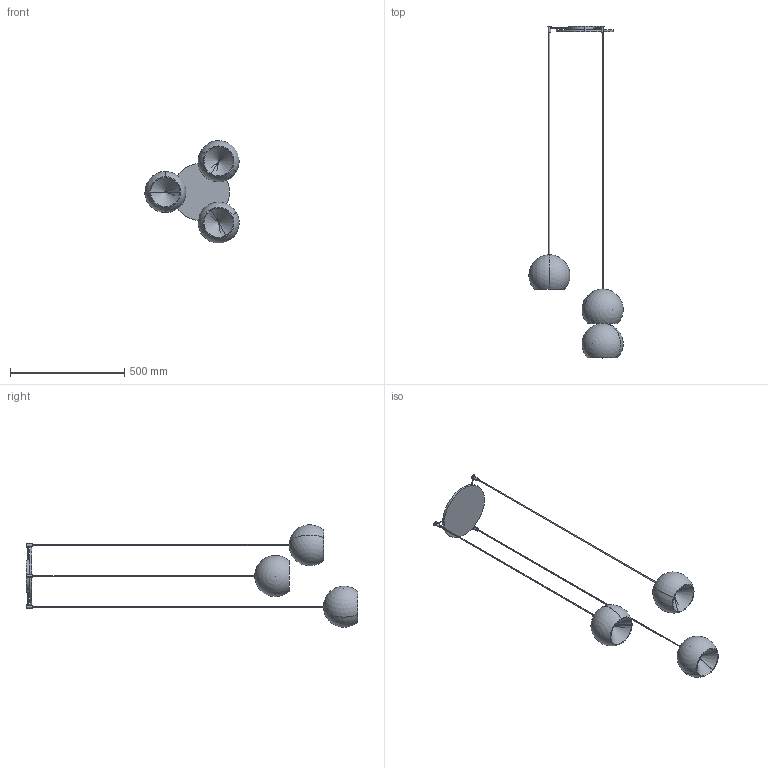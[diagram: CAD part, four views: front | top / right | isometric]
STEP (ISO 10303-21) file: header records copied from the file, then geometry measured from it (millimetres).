
FILE_DESCRIPTION (( 'STEP AP203' ), '1' );
FILE_NAME ('CHR03-00-CHERRY_3 sospensione.STEP', '2025-05-06T06:15:01', ( '' ), ( '' ), 'SwSTEP 2.0', 'SolidWorks 2022', '' );
FILE_SCHEMA (( 'CONFIG_CONTROL_DESIGN' ));
Length unit declared in the file: millimetre
Products named in the file (5): CHR03-00-CHERRY_3 sospensione; CHERRY_Lampada singola Diam.180_H=1700; CHERRY_Lampada singola Diam.180_H=1550; CHERRY_Lampada singola Diam.180_H=1850; CHERRY_Rosone diam.250_Cherry 3<A macchina>
Assembly tree (4 placements, depth 2):
  CHR03-00-CHERRY_3 sospensione
    CHERRY_Rosone diam.250_Cherry 3<A macchina>
    CHERRY_Lampada singola Diam.180_H=1700
    CHERRY_Lampada singola Diam.180_H=1550
    CHERRY_Lampada singola Diam.180_H=1850
Bounding box: 412.49 x 1450 x 448.21 mm (x, y, z)
Volume: 1310285.2 mm3; surface area: 791979.3 mm2
Topology: 16 solids, 16 shells, 118 faces, 278 edges, 175 vertices
Faces by surface type: cylinder 57, plane 37, sphere 12, cone 12
Entity records: 3795 total; most frequent: CARTESIAN_POINT 764, DIRECTION 588, ORIENTED_EDGE 472, AXIS2_PLACEMENT_3D 261, EDGE_CURVE 236, VERTEX_POINT 157, CIRCLE 136, EDGE_LOOP 131
